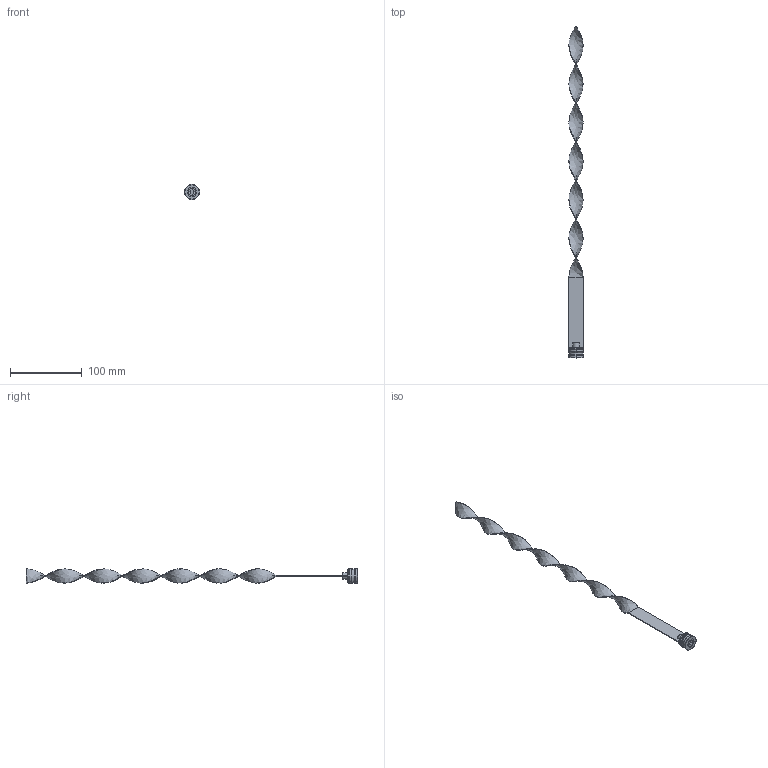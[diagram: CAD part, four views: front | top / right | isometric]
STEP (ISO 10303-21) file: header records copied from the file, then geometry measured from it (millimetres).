
FILE_DESCRIPTION (( 'STEP AP203' ), '1' );
FILE_NAME ('RLS-20Fx450.STEP', '2010-10-18T08:35:38', ( ' ' ), ( ' ' ), 'SwSTEP 2.0', 'SolidWorks 2005204', '' );
FILE_SCHEMA (( 'CONFIG_CONTROL_DESIGN' ));
Length unit declared in the file: millimetre
Products named in the file (1): RLS-20Fx450
Bounding box: 21.5 x 464 x 21.5 mm (x, y, z)
Volume: 13366.6 mm3; surface area: 21639.6 mm2
Topology: 1 solids, 1 shells, 77 faces, 179 edges, 110 vertices
Faces by surface type: plane 32, cylinder 17, cone 16, torus 8, bspline 4
Entity records: 5174 total; most frequent: CARTESIAN_POINT 3333, DIRECTION 383, ORIENTED_EDGE 358, EDGE_CURVE 179, AXIS2_PLACEMENT_3D 144, VERTEX_POINT 110, VECTOR 95, LINE 95
